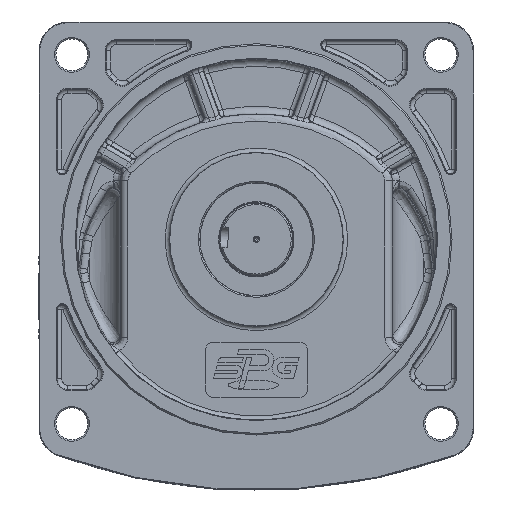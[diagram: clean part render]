
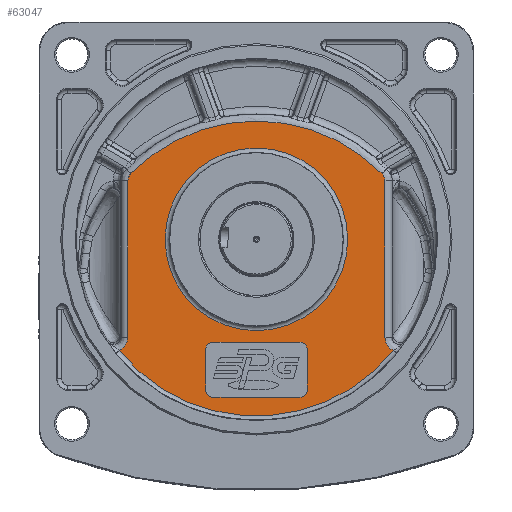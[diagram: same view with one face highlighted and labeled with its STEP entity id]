
A CAD part, front view. The second image highlights one B-rep face of the part: STEP entity #63047.
In plain terms, the highlighted planar face has unit normal (0, -1, 0).
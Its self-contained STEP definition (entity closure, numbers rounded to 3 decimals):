
#713=FACE_BOUND('',#15726,.T.);
#714=FACE_BOUND('',#15727,.T.);
#1464=PLANE('',#68819);
#4018=LINE('',#128798,#7008);
#4021=LINE('',#129299,#7011);
#4119=LINE('',#136568,#7109);
#4120=LINE('',#136572,#7110);
#4121=LINE('',#136576,#7111);
#4122=LINE('',#136580,#7112);
#7008=VECTOR('',#80805,10.);
#7011=VECTOR('',#80842,10.);
#7109=VECTOR('',#81992,10.);
#7110=VECTOR('',#81995,10.);
#7111=VECTOR('',#81998,10.);
#7112=VECTOR('',#82001,10.);
#11815=FACE_OUTER_BOUND('',#15725,.T.);
#15725=EDGE_LOOP('',(#50680,#50681,#50682,#50683,#50684,#50685,#50686,#50687));
#15726=EDGE_LOOP('',(#50688,#50689,#50690,#50691,#50692,#50693,#50694,#50695));
#15727=EDGE_LOOP('',(#50696));
#19670=CIRCLE('',#68816,121.858);
#19672=CIRCLE('',#68820,121.601);
#19673=CIRCLE('',#68821,5.);
#19674=CIRCLE('',#68822,5.);
#19675=CIRCLE('',#68823,5.);
#19676=CIRCLE('',#68824,5.);
#19677=CIRCLE('',#68825,63.);
#22121=B_SPLINE_CURVE_WITH_KNOTS('',3,(#118870,#118871,#118872,#118873,
#118874,#118875,#118876),.UNSPECIFIED.,.F.,.F.,(4,1,1,1,4),(0.,
0.361,0.722,1.084,1.153),
 .UNSPECIFIED.);
#22804=B_SPLINE_CURVE_WITH_KNOTS('',3,(#136423,#136424,#136425,#136426,
#136427,#136428),.UNSPECIFIED.,.F.,.F.,(4,1,1,4),(1.376,1.806,
2.167,2.528),.UNSPECIFIED.);
#22805=B_SPLINE_CURVE_WITH_KNOTS('',3,(#136554,#136555,#136556,#136557,
#136558),.UNSPECIFIED.,.F.,.F.,(4,1,4),(0.,0.309,0.541),
 .UNSPECIFIED.);
#22806=B_SPLINE_CURVE_WITH_KNOTS('',3,(#136561,#136562,#136563,#136564,
#136565),.UNSPECIFIED.,.F.,.F.,(4,1,4),(0.,0.232,0.541),
 .UNSPECIFIED.);
#26168=VERTEX_POINT('',#118856);
#26169=VERTEX_POINT('',#118868);
#26788=VERTEX_POINT('',#128797);
#26798=VERTEX_POINT('',#129297);
#26799=VERTEX_POINT('',#129298);
#27191=VERTEX_POINT('',#136410);
#27193=VERTEX_POINT('',#136553);
#27194=VERTEX_POINT('',#136559);
#27195=VERTEX_POINT('',#136566);
#27196=VERTEX_POINT('',#136567);
#27197=VERTEX_POINT('',#136569);
#27198=VERTEX_POINT('',#136571);
#27199=VERTEX_POINT('',#136573);
#27200=VERTEX_POINT('',#136575);
#27201=VERTEX_POINT('',#136577);
#27202=VERTEX_POINT('',#136579);
#27203=VERTEX_POINT('',#136582);
#33517=EDGE_CURVE('',#26169,#26168,#22121,.T.);
#34574=EDGE_CURVE('',#26788,#26169,#4018,.T.);
#34600=EDGE_CURVE('',#26798,#26799,#4021,.T.);
#35321=EDGE_CURVE('',#27191,#26798,#22804,.T.);
#35324=EDGE_CURVE('',#26168,#27191,#19670,.T.);
#35327=EDGE_CURVE('',#27193,#26788,#22805,.T.);
#35328=EDGE_CURVE('',#27194,#27193,#19672,.T.);
#35329=EDGE_CURVE('',#26799,#27194,#22806,.T.);
#35330=EDGE_CURVE('',#27195,#27196,#4119,.T.);
#35331=EDGE_CURVE('',#27197,#27196,#19673,.T.);
#35332=EDGE_CURVE('',#27197,#27198,#4120,.T.);
#35333=EDGE_CURVE('',#27199,#27198,#19674,.T.);
#35334=EDGE_CURVE('',#27199,#27200,#4121,.T.);
#35335=EDGE_CURVE('',#27201,#27200,#19675,.T.);
#35336=EDGE_CURVE('',#27201,#27202,#4122,.T.);
#35337=EDGE_CURVE('',#27195,#27202,#19676,.T.);
#35338=EDGE_CURVE('',#27203,#27203,#19677,.T.);
#50680=ORIENTED_EDGE('',*,*,#35324,.F.);
#50681=ORIENTED_EDGE('',*,*,#33517,.F.);
#50682=ORIENTED_EDGE('',*,*,#34574,.F.);
#50683=ORIENTED_EDGE('',*,*,#35327,.F.);
#50684=ORIENTED_EDGE('',*,*,#35328,.F.);
#50685=ORIENTED_EDGE('',*,*,#35329,.F.);
#50686=ORIENTED_EDGE('',*,*,#34600,.F.);
#50687=ORIENTED_EDGE('',*,*,#35321,.F.);
#50688=ORIENTED_EDGE('',*,*,#35330,.T.);
#50689=ORIENTED_EDGE('',*,*,#35331,.F.);
#50690=ORIENTED_EDGE('',*,*,#35332,.T.);
#50691=ORIENTED_EDGE('',*,*,#35333,.F.);
#50692=ORIENTED_EDGE('',*,*,#35334,.T.);
#50693=ORIENTED_EDGE('',*,*,#35335,.F.);
#50694=ORIENTED_EDGE('',*,*,#35336,.T.);
#50695=ORIENTED_EDGE('',*,*,#35337,.F.);
#50696=ORIENTED_EDGE('',*,*,#35338,.F.);
#63047=ADVANCED_FACE('',(#11815,#713,#714),#1464,.F.);
#68816=AXIS2_PLACEMENT_3D('',#136547,#81981,#81982);
#68819=AXIS2_PLACEMENT_3D('',#136552,#81988,#81989);
#68820=AXIS2_PLACEMENT_3D('',#136560,#81990,#81991);
#68821=AXIS2_PLACEMENT_3D('',#136570,#81993,#81994);
#68822=AXIS2_PLACEMENT_3D('',#136574,#81996,#81997);
#68823=AXIS2_PLACEMENT_3D('',#136578,#81999,#82000);
#68824=AXIS2_PLACEMENT_3D('',#136581,#82002,#82003);
#68825=AXIS2_PLACEMENT_3D('',#136583,#82004,#82005);
#80805=DIRECTION('',(0.,0.,-1.));
#80842=DIRECTION('',(0.,0.,1.));
#81981=DIRECTION('center_axis',(0.,1.,0.));
#81982=DIRECTION('ref_axis',(0.,0.,
-1.));
#81988=DIRECTION('center_axis',(0.,1.,0.));
#81989=DIRECTION('ref_axis',(-1.,0.,0.));
#81990=DIRECTION('center_axis',(0.,1.,0.));
#81991=DIRECTION('ref_axis',(0.,0.,
1.));
#81992=DIRECTION('',(0.,0.,1.));
#81993=DIRECTION('center_axis',(0.,-1.,0.));
#81994=DIRECTION('ref_axis',(-0.707,0.,0.707));
#81995=DIRECTION('',(1.,0.,0.));
#81996=DIRECTION('center_axis',(0.,-1.,0.));
#81997=DIRECTION('ref_axis',(0.707,0.,0.707));
#81998=DIRECTION('',(0.,0.,-1.));
#81999=DIRECTION('center_axis',(0.,-1.,0.));
#82000=DIRECTION('ref_axis',(0.707,0.,-0.707));
#82001=DIRECTION('',(-1.,0.,0.));
#82002=DIRECTION('center_axis',(0.,-1.,0.));
#82003=DIRECTION('ref_axis',(-0.707,0.,-0.707));
#82004=DIRECTION('center_axis',(0.,-1.,0.));
#82005=DIRECTION('ref_axis',(-1.,0.,0.));
#118856=CARTESIAN_POINT('',(37.085,2.,61.843));
#118868=CARTESIAN_POINT('',(31.107,2.,71.027));
#118870=CARTESIAN_POINT('Ctrl Pts',(31.107,2.,71.027));
#118871=CARTESIAN_POINT('Ctrl Pts',(31.107,2.,69.823));
#118872=CARTESIAN_POINT('Ctrl Pts',(31.547,2.,67.387));
#118873=CARTESIAN_POINT('Ctrl Pts',(33.451,2.,64.233));
#118874=CARTESIAN_POINT('Ctrl Pts',(35.57,2.,62.556));
#118875=CARTESIAN_POINT('Ctrl Pts',(36.873,2.,61.934));
#118876=CARTESIAN_POINT('Ctrl Pts',(37.085,2.,61.842));
#128797=CARTESIAN_POINT('',(31.107,2.,178.978));
#128798=CARTESIAN_POINT('',(31.107,2.,44.589));
#129297=CARTESIAN_POINT('',(-146.246,2.,71.027));
#129298=CARTESIAN_POINT('',(-146.246,2.,178.978));
#129299=CARTESIAN_POINT('',(-146.246,2.,44.589));
#136410=CARTESIAN_POINT('',(-152.224,2.,61.843));
#136423=CARTESIAN_POINT('Ctrl Pts',(-152.227,2.,
61.849));
#136424=CARTESIAN_POINT('Ctrl Pts',(-150.907,2.,62.433));
#136425=CARTESIAN_POINT('Ctrl Pts',(-148.703,2.,
64.025));
#136426=CARTESIAN_POINT('Ctrl Pts',(-146.69,2.,
67.396));
#136427=CARTESIAN_POINT('Ctrl Pts',(-146.246,2.,
69.823));
#136428=CARTESIAN_POINT('Ctrl Pts',(-146.246,2.,
71.027));
#136547=CARTESIAN_POINT('Origin',(-57.569,2.,138.589));
#136552=CARTESIAN_POINT('Origin',(-57.569,2.,98.589));
#136553=CARTESIAN_POINT('',(29.097,2.,183.887));
#136554=CARTESIAN_POINT('Ctrl Pts',(29.097,2.,183.887));
#136555=CARTESIAN_POINT('Ctrl Pts',(29.819,2.,183.153));
#136556=CARTESIAN_POINT('Ctrl Pts',(30.804,2.,181.571));
#136557=CARTESIAN_POINT('Ctrl Pts',(31.107,2.,179.75));
#136558=CARTESIAN_POINT('Ctrl Pts',(31.107,2.,178.978));
#136559=CARTESIAN_POINT('',(-144.235,2.,183.887));
#136560=CARTESIAN_POINT('Origin',(-57.569,2.,98.589));
#136561=CARTESIAN_POINT('Ctrl Pts',(-146.246,2.,
178.978));
#136562=CARTESIAN_POINT('Ctrl Pts',(-146.246,2.,
179.75));
#136563=CARTESIAN_POINT('Ctrl Pts',(-145.943,2.,
181.571));
#136564=CARTESIAN_POINT('Ctrl Pts',(-144.958,2.,
183.153));
#136565=CARTESIAN_POINT('Ctrl Pts',(-144.235,2.,
183.887));
#136566=CARTESIAN_POINT('',(-92.569,2.,34.589));
#136567=CARTESIAN_POINT('',(-92.569,2.,62.589));
#136568=CARTESIAN_POINT('',(-92.569,2.,83.089));
#136569=CARTESIAN_POINT('',(-87.569,2.,67.589));
#136570=CARTESIAN_POINT('Origin',(-87.569,2.,62.589));
#136571=CARTESIAN_POINT('',(-27.569,2.,67.589));
#136572=CARTESIAN_POINT('',(-40.069,2.,67.589));
#136573=CARTESIAN_POINT('',(-22.569,2.,62.589));
#136574=CARTESIAN_POINT('Origin',(-27.569,2.,62.589));
#136575=CARTESIAN_POINT('',(-22.569,2.,34.589));
#136576=CARTESIAN_POINT('',(-22.569,2.,64.089));
#136577=CARTESIAN_POINT('',(-27.569,2.,29.589));
#136578=CARTESIAN_POINT('Origin',(-27.569,2.,34.589));
#136579=CARTESIAN_POINT('',(-87.569,2.,29.589));
#136580=CARTESIAN_POINT('',(-75.069,2.,29.589));
#136581=CARTESIAN_POINT('Origin',(-87.569,2.,34.589));
#136582=CARTESIAN_POINT('',(5.431,2.,138.589));
#136583=CARTESIAN_POINT('Origin',(-57.569,2.,138.589));
